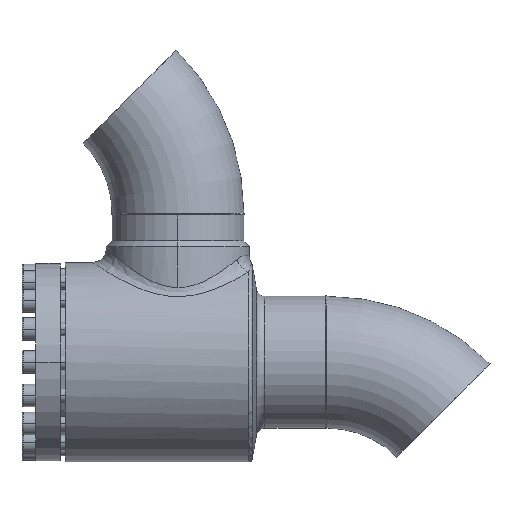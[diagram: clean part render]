
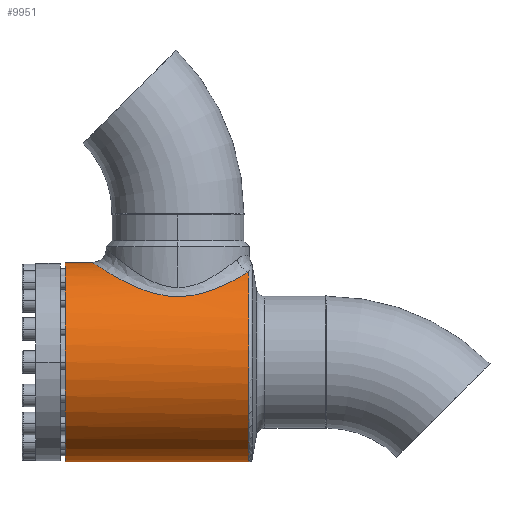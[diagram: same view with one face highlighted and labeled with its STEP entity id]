
A CAD part, left-side view. The second image highlights one B-rep face of the part: STEP entity #9951.
In plain terms, the highlighted cylindrical face has radius 57.5 mm (diameter 115 mm), a partial arc.
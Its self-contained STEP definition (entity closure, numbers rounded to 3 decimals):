
#96 = FACE_OUTER_BOUND ( 'NONE', #9725, .T. ) ;
#97 = CYLINDRICAL_SURFACE ( 'NONE', #98, 57.5 ) ;
#98 = AXIS2_PLACEMENT_3D ( 'NONE', #99, #100, #101 ) ;
#99 = CARTESIAN_POINT ( 'NONE',  ( 0., -111., 0. ) ) ;
#100 = DIRECTION ( 'NONE',  ( 0., 1., 0. ) ) ;
#101 = DIRECTION ( 'NONE',  ( 0., 0., 1. ) ) ;
#145 = CARTESIAN_POINT ( 'NONE',  ( 0., -105.892, -57.5 ) ) ;
#804 = VERTEX_POINT ( 'NONE', #4592 ) ;
#1584 = VERTEX_POINT ( 'NONE', #5346 ) ;
#2589 = CIRCLE ( 'NONE', #2590, 57.5 ) ;
#2590 = AXIS2_PLACEMENT_3D ( 'NONE', #2591, #2592, #2593 ) ;
#2591 = CARTESIAN_POINT ( 'NONE',  ( 0., 0., 0. ) ) ;
#2592 = DIRECTION ( 'NONE',  ( 0., 1., 0. ) ) ;
#2593 = DIRECTION ( 'NONE',  ( 0., 0., 1. ) ) ;
#2609 = LINE ( 'NONE', #2610, #2611 ) ;
#2610 = CARTESIAN_POINT ( 'NONE',  ( 0., -111., -57.5 ) ) ;
#2611 = VECTOR ( 'NONE', #2612, 1000. ) ;
#2612 = DIRECTION ( 'NONE',  ( 0., 1., 0. ) ) ;
#3129 = B_SPLINE_CURVE_WITH_KNOTS ( 'NONE', 3,
 ( #3130, #3131, #3132, #3133, #3134, #3135, #3136, #3137, #3138, #3139, #3140, #3141, #3144, #3145, #3146, #3147, #3148, #3149, #3150, #3151, #3152, #3153, #3154, #3155, #3156, #3157, #3158, #3159, #3162, #3163, #3164, #3165, #3166, #3167, #3168, #3169, #3170, #3171, #3172, #3173, #3174, #3175, #3176, #3177, #3180, #3181, #3182, #3183, #3184, #3185, #3186, #3187, #3188, #3189, #3190, #3191, #3192, #3193, #3194, #3195, #3196, #3197 ),
 .UNSPECIFIED., .F., .F.,
 ( 4, 2, 2, 2, 2, 2, 2, 2, 2, 2, 2, 2, 2, 2, 2, 2, 2, 2, 2, 2, 2, 2, 2, 2, 2, 2, 2, 2, 2, 2, 4 ),
 ( 0., 0.008, 0.016, 0.017, 0.019, 0.023, 0.031, 0.035, 0.039, 0.047, 0.049, 0.05, 0.054, 0.058, 0.06, 0.062, 0.07, 0.074, 0.078, 0.085, 0.089, 0.091, 0.093, 0.101, 0.105, 0.107, 0.109, 0.116, 0.118, 0.12, 0.124 ),
 .UNSPECIFIED. ) ;
#3130 = CARTESIAN_POINT ( 'NONE',  ( -24.174, -105.892, 52.171 ) ) ;
#3131 = CARTESIAN_POINT ( 'NONE',  ( -26.132, -104.39, 51.264 ) ) ;
#3132 = CARTESIAN_POINT ( 'NONE',  ( -27.915, -102.76, 50.305 ) ) ;
#3133 = CARTESIAN_POINT ( 'NONE',  ( -31.195, -99.268, 48.34 ) ) ;
#3134 = CARTESIAN_POINT ( 'NONE',  ( -32.691, -97.405, 47.333 ) ) ;
#3135 = CARTESIAN_POINT ( 'NONE',  ( -34.397, -94.927, 46.079 ) ) ;
#3136 = CARTESIAN_POINT ( 'NONE',  ( -34.73, -94.424, 45.829 ) ) ;
#3137 = CARTESIAN_POINT ( 'NONE',  ( -35.379, -93.402, 45.329 ) ) ;
#3138 = CARTESIAN_POINT ( 'NONE',  ( -35.695, -92.884, 45.08 ) ) ;
#3139 = CARTESIAN_POINT ( 'NONE',  ( -36.613, -91.317, 44.344 ) ) ;
#3140 = CARTESIAN_POINT ( 'NONE',  ( -37.186, -90.253, 43.863 ) ) ;
#3141 = CARTESIAN_POINT ( 'NONE',  ( -38.793, -86.998, 42.466 ) ) ;
#3144 = CARTESIAN_POINT ( 'NONE',  ( -39.716, -84.747, 41.594 ) ) ;
#3145 = CARTESIAN_POINT ( 'NONE',  ( -40.882, -81.225, 40.437 ) ) ;
#3146 = CARTESIAN_POINT ( 'NONE',  ( -41.234, -80.027, 40.077 ) ) ;
#3147 = CARTESIAN_POINT ( 'NONE',  ( -41.862, -77.576, 39.421 ) ) ;
#3148 = CARTESIAN_POINT ( 'NONE',  ( -42.138, -76.319, 39.125 ) ) ;
#3149 = CARTESIAN_POINT ( 'NONE',  ( -42.831, -72.529, 38.37 ) ) ;
#3150 = CARTESIAN_POINT ( 'NONE',  ( -43.12, -69.961, 38.038 ) ) ;
#3151 = CARTESIAN_POINT ( 'NONE',  ( -43.257, -66.692, 37.883 ) ) ;
#3152 = CARTESIAN_POINT ( 'NONE',  ( -43.273, -66.034, 37.864 ) ) ;
#3153 = CARTESIAN_POINT ( 'NONE',  ( -43.282, -64.718, 37.854 ) ) ;
#3154 = CARTESIAN_POINT ( 'NONE',  ( -43.275, -64.063, 37.862 ) ) ;
#3155 = CARTESIAN_POINT ( 'NONE',  ( -43.219, -62.103, 37.926 ) ) ;
#3156 = CARTESIAN_POINT ( 'NONE',  ( -43.137, -60.806, 38.02 ) ) ;
#3157 = CARTESIAN_POINT ( 'NONE',  ( -42.884, -58.229, 38.305 ) ) ;
#3158 = CARTESIAN_POINT ( 'NONE',  ( -42.713, -56.95, 38.496 ) ) ;
#3159 = CARTESIAN_POINT ( 'NONE',  ( -42.391, -55.043, 38.85 ) ) ;
#3162 = CARTESIAN_POINT ( 'NONE',  ( -42.272, -54.408, 38.979 ) ) ;
#3163 = CARTESIAN_POINT ( 'NONE',  ( -42.014, -53.15, 39.257 ) ) ;
#3164 = CARTESIAN_POINT ( 'NONE',  ( -41.875, -52.528, 39.406 ) ) ;
#3165 = CARTESIAN_POINT ( 'NONE',  ( -41.13, -49.446, 40.191 ) ) ;
#3166 = CARTESIAN_POINT ( 'NONE',  ( -40.378, -47.077, 40.957 ) ) ;
#3167 = CARTESIAN_POINT ( 'NONE',  ( -39.022, -43.642, 42.237 ) ) ;
#3168 = CARTESIAN_POINT ( 'NONE',  ( -38.532, -42.517, 42.685 ) ) ;
#3169 = CARTESIAN_POINT ( 'NONE',  ( -37.473, -40.304, 43.618 ) ) ;
#3170 = CARTESIAN_POINT ( 'NONE',  ( -36.908, -39.223, 44.098 ) ) ;
#3171 = CARTESIAN_POINT ( 'NONE',  ( -35.115, -36.073, 45.559 ) ) ;
#3172 = CARTESIAN_POINT ( 'NONE',  ( -33.785, -34.085, 46.562 ) ) ;
#3173 = CARTESIAN_POINT ( 'NONE',  ( -31.574, -31.259, 48.064 ) ) ;
#3174 = CARTESIAN_POINT ( 'NONE',  ( -30.801, -30.343, 48.564 ) ) ;
#3175 = CARTESIAN_POINT ( 'NONE',  ( -29.582, -29.009, 49.309 ) ) ;
#3176 = CARTESIAN_POINT ( 'NONE',  ( -29.166, -28.57, 49.557 ) ) ;
#3177 = CARTESIAN_POINT ( 'NONE',  ( -28.313, -27.708, 50.049 ) ) ;
#3180 = CARTESIAN_POINT ( 'NONE',  ( -27.875, -27.282, 50.294 ) ) ;
#3181 = CARTESIAN_POINT ( 'NONE',  ( -25.646, -25.201, 51.504 ) ) ;
#3182 = CARTESIAN_POINT ( 'NONE',  ( -23.737, -23.688, 52.419 ) ) ;
#3183 = CARTESIAN_POINT ( 'NONE',  ( -20.66, -21.659, 53.671 ) ) ;
#3184 = CARTESIAN_POINT ( 'NONE',  ( -19.599, -21.023, 54.069 ) ) ;
#3185 = CARTESIAN_POINT ( 'NONE',  ( -17.948, -20.134, 54.63 ) ) ;
#3186 = CARTESIAN_POINT ( 'NONE',  ( -17.388, -19.848, 54.811 ) ) ;
#3187 = CARTESIAN_POINT ( 'NONE',  ( -16.247, -19.3, 55.16 ) ) ;
#3188 = CARTESIAN_POINT ( 'NONE',  ( -15.665, -19.037, 55.328 ) ) ;
#3189 = CARTESIAN_POINT ( 'NONE',  ( -12.734, -17.796, 56.125 ) ) ;
#3190 = CARTESIAN_POINT ( 'NONE',  ( -10.302, -17.028, 56.627 ) ) ;
#3191 = CARTESIAN_POINT ( 'NONE',  ( -7.142, -16.371, 57.058 ) ) ;
#3192 = CARTESIAN_POINT ( 'NONE',  ( -6.505, -16.254, 57.135 ) ) ;
#3193 = CARTESIAN_POINT ( 'NONE',  ( -5.216, -16.054, 57.267 ) ) ;
#3194 = CARTESIAN_POINT ( 'NONE',  ( -4.563, -15.969, 57.322 ) ) ;
#3195 = CARTESIAN_POINT ( 'NONE',  ( -2.602, -15.766, 57.456 ) ) ;
#3196 = CARTESIAN_POINT ( 'NONE',  ( -1.298, -15.7, 57.5 ) ) ;
#3197 = CARTESIAN_POINT ( 'NONE',  ( 0., -15.7, 57.5 ) ) ;
#3859 = ORIENTED_EDGE ( 'NONE', *, *, #14197, .T. ) ;
#3861 = VERTEX_POINT ( 'NONE', #4905 ) ;
#3875 = EDGE_CURVE ( 'NONE', #3861, #804, #5169, .T. ) ;
#4027 = ORIENTED_EDGE ( 'NONE', *, *, #14765, .F. ) ;
#4510 = ORIENTED_EDGE ( 'NONE', *, *, #3875, .T. ) ;
#4592 = CARTESIAN_POINT ( 'NONE',  ( 0., 0., 57.5 ) ) ;
#4905 = CARTESIAN_POINT ( 'NONE',  ( 0., -15.7, 57.5 ) ) ;
#5169 = LINE ( 'NONE', #5172, #5173 ) ;
#5172 = CARTESIAN_POINT ( 'NONE',  ( 0., -111., 57.5 ) ) ;
#5173 = VECTOR ( 'NONE', #5174, 1000. ) ;
#5174 = DIRECTION ( 'NONE',  ( 0., 1., 0. ) ) ;
#5322 = CARTESIAN_POINT ( 'NONE',  ( -24.174, -105.892, 52.171 ) ) ;
#5346 = CARTESIAN_POINT ( 'NONE',  ( 0., 0., -57.5 ) ) ;
#5548 = VERTEX_POINT ( 'NONE', #145 ) ;
#6881 = CIRCLE ( 'NONE', #6882, 57.5 ) ;
#6882 = AXIS2_PLACEMENT_3D ( 'NONE', #6883, #6884, #6885 ) ;
#6883 = CARTESIAN_POINT ( 'NONE',  ( 0., -105.892, 0. ) ) ;
#6884 = DIRECTION ( 'NONE',  ( 0., 1., 0. ) ) ;
#6885 = DIRECTION ( 'NONE',  ( 0., 0., -1. ) ) ;
#9725 = EDGE_LOOP ( 'NONE', ( #13399, #3859, #12005, #4510, #4027 ) ) ;
#9951 = ADVANCED_FACE ( 'NONE', ( #96 ), #97, .T. ) ;
#11135 = EDGE_CURVE ( 'NONE', #12494, #3861, #3129, .T. ) ;
#12005 = ORIENTED_EDGE ( 'NONE', *, *, #11135, .T. ) ;
#12494 = VERTEX_POINT ( 'NONE', #5322 ) ;
#13399 = ORIENTED_EDGE ( 'NONE', *, *, #14801, .F. ) ;
#14197 = EDGE_CURVE ( 'NONE', #5548, #12494, #6881, .T. ) ;
#14765 = EDGE_CURVE ( 'NONE', #1584, #804, #2589, .T. ) ;
#14801 = EDGE_CURVE ( 'NONE', #5548, #1584, #2609, .T. ) ;
